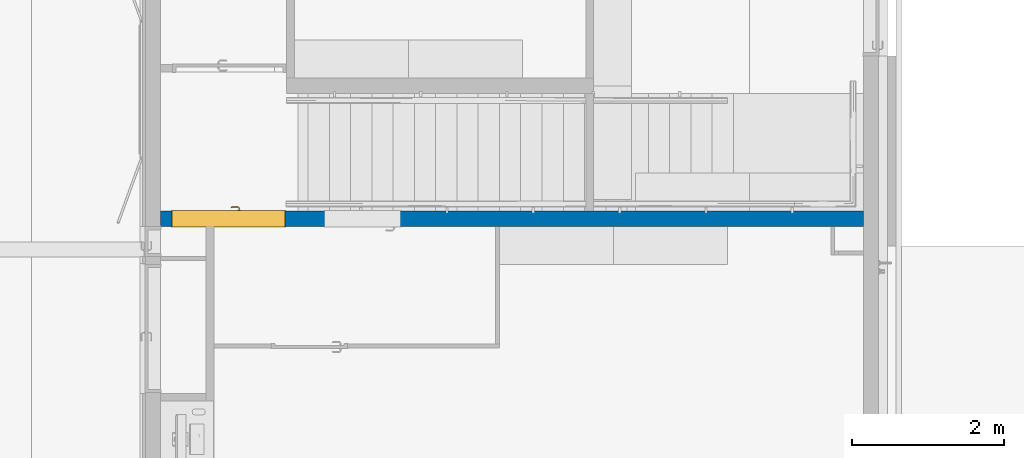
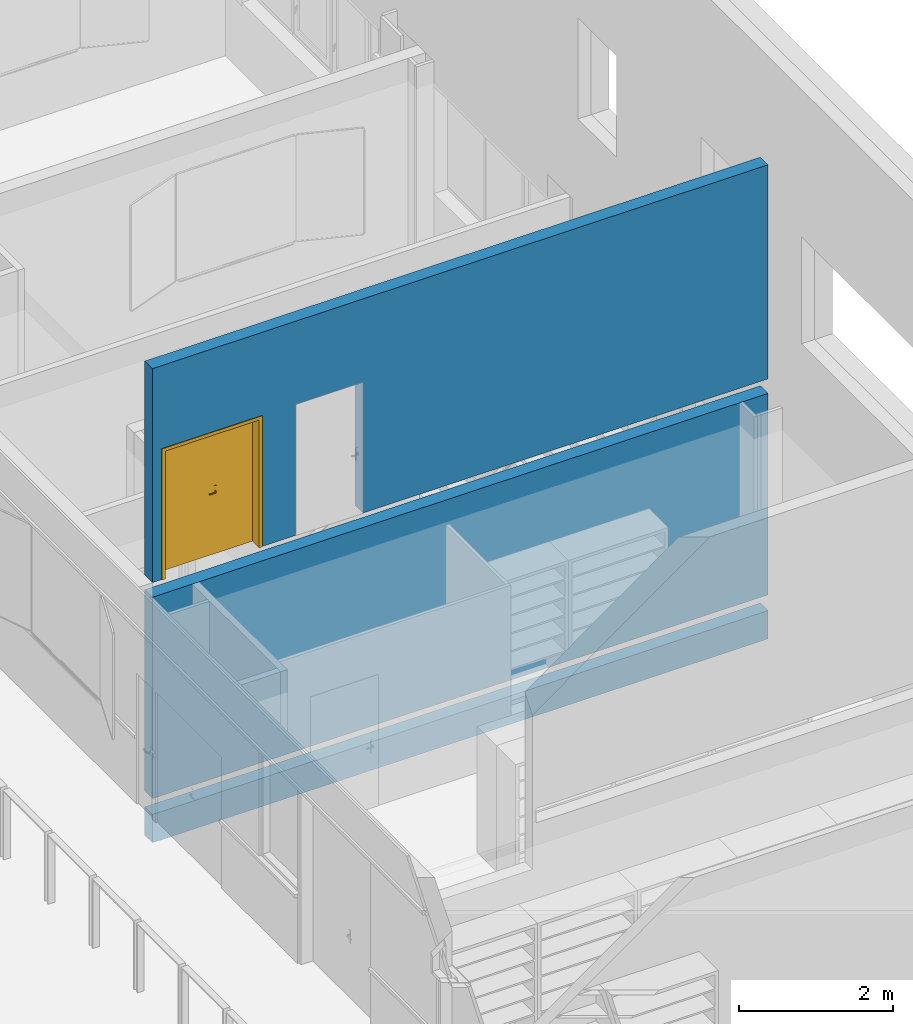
"""IFC2X3 building model written with IfcOpenShell, lengths in centimetres."""

import ifcopenshell
import ifcopenshell.guid

model = None  # the IFC model being written
_history = None  # IfcOwnerHistory: only IFC2X3 demands one
_inside = {}  # id of a spatial element -> (the spatial element, [elements in it])
_under = {}  # id of a project, library or spatial element -> (it, [spatial elements below it])
_declared = {}  # id of a project -> (the project, [libraries it declares])
_typed = {}  # id of a type object -> (the type object, [elements of that type])
_made_of = {}  # id of a material, layer set ... -> (it, [elements and type objects made of it])


def new_model(schema):
    """Start an empty IFC model of exactly this schema.

    Asked for "IFC4X3", IfcOpenShell would pick the latest addendum, in which some entities
    have other attributes; the version numbers below select the first issue.
    IFC2X3 requires an IfcOwnerHistory on every rooted entity: one is made here for all.
    """
    global model, _history
    if schema == "IFC4X3":
        model = ifcopenshell.file(schema_version=(4, 3, 0, 0))
    else:
        model = ifcopenshell.file(schema=schema)
    _inside.clear()
    _under.clear()
    _declared.clear()
    _typed.clear()
    _made_of.clear()
    _history = None
    if model.schema == "IFC2X3":
        org = make("IfcOrganization", Name="unknown")
        user = make(
            "IfcPersonAndOrganization",
            ThePerson=make("IfcPerson", FamilyName="unknown"),
            TheOrganization=org,
        )
        app = make(
            "IfcApplication",
            ApplicationDeveloper=org,
            Version="unknown",
            ApplicationFullName="unknown",
            ApplicationIdentifier="unknown",
        )
        _history = make(
            "IfcOwnerHistory",
            OwningUser=user,
            OwningApplication=app,
            ChangeAction="ADDED",
            CreationDate=0,
        )
    return model


def make(cls, **values):
    """One entity of the class cls with the attributes given. An attribute that is None is left unset."""
    return model.create_entity(
        cls, **{name: value for name, value in values.items() if value is not None}
    )


def entity(cls, *values):
    """Any entity or typed value of the class cls, its attributes in the order of the schema. None: left unset."""
    e = model.create_entity(cls)
    for i, value in enumerate(values):
        if value is not None:
            e[i] = value
    return e


def rooted(cls, **values):
    """An entity with a GlobalId (a new one), such as an element, a storey or a relation."""
    return make(cls, GlobalId=ifcopenshell.guid.new(), OwnerHistory=_history, **values)


def si_unit(unit_type, name, prefix=None):
    """IfcSIUnit, for example si_unit("LENGTHUNIT", "METRE", prefix="MILLI")."""
    return make("IfcSIUnit", UnitType=unit_type, Prefix=prefix, Name=name)


def converted_unit(unit_type, name, factor, base, dimensions=None, offset=None):
    """IfcConversionBasedUnit, such as the inch: factor (a typed value) times the base unit."""
    return make(
        "IfcConversionBasedUnit"
        if offset is None
        else "IfcConversionBasedUnitWithOffset",
        ConversionOffset=offset,
        Dimensions=None
        if dimensions is None
        else entity("IfcDimensionalExponents", *dimensions),
        UnitType=unit_type,
        Name=name,
        ConversionFactor=make(
            "IfcMeasureWithUnit", ValueComponent=factor, UnitComponent=base
        ),
    )


def derived_unit(unit_type, elements):
    """IfcDerivedUnit: a product of units, each with its exponent."""
    return make(
        "IfcDerivedUnit",
        Elements=[
            make("IfcDerivedUnitElement", Unit=unit, Exponent=power)
            for unit, power in elements
        ],
        UnitType=unit_type,
    )


def assignment(units):
    """IfcUnitAssignment: the units of a project."""
    return None if units is None else make("IfcUnitAssignment", Units=units)


def point(xyz):
    """IfcCartesianPoint."""
    return None if xyz is None else make("IfcCartesianPoint", Coordinates=xyz)


def direction(xyz):
    """IfcDirection."""
    return None if xyz is None else make("IfcDirection", DirectionRatios=xyz)


def frame(location, z_axis=None, x_axis=None):
    """IfcAxis2Placement3D, a coordinate frame: its origin and axes. An axis left out is left unset."""
    return make(
        "IfcAxis2Placement3D",
        Location=point(location),
        Axis=direction(z_axis),
        RefDirection=direction(x_axis),
    )


def frame_2d(location, x_axis=None):
    """IfcAxis2Placement2D, a coordinate frame in the plane: its origin and x axis."""
    return make(
        "IfcAxis2Placement2D", Location=point(location), RefDirection=direction(x_axis)
    )


def origin():
    """The frame at (0, 0, 0) with its axes left unset."""
    return frame((0.0, 0.0, 0.0))


def place(relative_to, where):
    """IfcLocalPlacement: puts the frame where relative to a parent placement (None: the world)."""
    return make(
        "IfcLocalPlacement", PlacementRelTo=relative_to, RelativePlacement=where
    )


def context(
    kind, dimensions, precision=None, world=None, true_north=None, identifier=None
):
    """IfcGeometricRepresentationContext, for example the 3D "Model" context."""
    return make(
        "IfcGeometricRepresentationContext",
        ContextIdentifier=identifier,
        ContextType=kind,
        CoordinateSpaceDimension=dimensions,
        Precision=precision,
        WorldCoordinateSystem=world,
        TrueNorth=true_north,
    )


def subcontext(parent, identifier, kind, view, scale=None):
    """IfcGeometricRepresentationSubContext, for example "Body" below "Model"."""
    return make(
        "IfcGeometricRepresentationSubContext",
        ContextIdentifier=identifier,
        ContextType=kind,
        ParentContext=parent,
        TargetScale=scale,
        TargetView=view,
    )


def project(units=None, contexts=None):
    """IfcProject with its units and contexts."""
    return rooted(
        "IfcProject",
        Name="project",
        RepresentationContexts=contexts,
        UnitsInContext=assignment(units),
    )


def spatial(cls, under=None, at=None, **own):
    """A site, building, storey or space (cls), placed at a placement, below another one or the project."""
    s = rooted(cls, ObjectPlacement=at, **own)
    if under is not None:
        _under.setdefault(under.id(), (under, []))[1].append(s)
    return s


def profile(cls, at=None, kind="AREA", **sizes):
    """A parametric profile (cls). Its sizes go by their IFC names, for example OverallWidth=200.0."""
    return make(cls, ProfileType=kind, Position=at, **sizes)


def rectangle(**sizes):
    """IfcRectangleProfileDef."""
    return profile("IfcRectangleProfileDef", **sizes)


def extrude(swept, where, along, depth):
    """IfcExtrudedAreaSolid: the profile swept, set in the frame where, extruded along a direction by depth."""
    return make(
        "IfcExtrudedAreaSolid",
        SweptArea=swept,
        Position=where,
        ExtrudedDirection=direction(along),
        Depth=depth,
    )


def faces_of(points, faces, orient=None, outer=None):
    """IfcFace entities. A face is a list of loops; a loop is a list of indices into points, from 0.

    orient and outer hold one flag for each loop. By default every Orientation is true, the
    first loop of a face is its IfcFaceOuterBound and the others are IfcFaceBound.
    """
    made = []
    for i, loops in enumerate(faces):
        bounds = []
        for j, loop in enumerate(loops):
            is_outer = j == 0 if outer is None else outer[i][j]
            bounds.append(
                make(
                    "IfcFaceOuterBound" if is_outer else "IfcFaceBound",
                    Bound=make("IfcPolyLoop", Polygon=[points[k] for k in loop]),
                    Orientation=True if orient is None else orient[i][j],
                )
            )
        made.append(make("IfcFace", Bounds=bounds))
    return made


def faceted_brep(points, faces, orient=None, outer=None, voids=None):
    """IfcFacetedBrep: a solid bounded by flat faces; with voids (closed shells), ...WithVoids."""
    shared = [point(p) for p in points]
    hull = make("IfcClosedShell", CfsFaces=faces_of(shared, faces, orient, outer))
    if voids is None:
        return make("IfcFacetedBrep", Outer=hull)
    return make(
        "IfcFacetedBrepWithVoids",
        Outer=hull,
        Voids=[
            make(cls, CfsFaces=faces_of(shared, fs, o, b)) for cls, fs, o, b in voids
        ],
    )


def shape(context_of_items, identifier, shape_type, items):
    """IfcShapeRepresentation: the items that make up one representation, for example the "Body"."""
    return make(
        "IfcShapeRepresentation",
        ContextOfItems=context_of_items,
        RepresentationIdentifier=identifier,
        RepresentationType=shape_type,
        Items=items,
    )


def source(mapping_origin, context_of_items, identifier, shape_type, items):
    """IfcRepresentationMap: a shape defined once, which mapped items show again and again."""
    return make(
        "IfcRepresentationMap",
        MappingOrigin=mapping_origin,
        MappedRepresentation=shape(context_of_items, identifier, shape_type, items),
    )


def transform(
    local_origin,
    x_axis=None,
    y_axis=None,
    z_axis=None,
    scale=None,
    scale2=None,
    scale3=None,
    uniform=True,
):
    """IfcCartesianTransformationOperator3D, or its non-uniform kind. x_axis, y_axis, z_axis: its Axis1, 2, 3."""
    if uniform:
        return make(
            "IfcCartesianTransformationOperator3D",
            Axis1=direction(x_axis),
            Axis2=direction(y_axis),
            LocalOrigin=point(local_origin),
            Scale=scale,
            Axis3=direction(z_axis),
        )
    return make(
        "IfcCartesianTransformationOperator3DnonUniform",
        Axis1=direction(x_axis),
        Axis2=direction(y_axis),
        LocalOrigin=point(local_origin),
        Scale=scale,
        Axis3=direction(z_axis),
        Scale2=scale2,
        Scale3=scale3,
    )


def mapped(mapping_source, mapping_target):
    """IfcMappedItem: shows the shape of a source again, moved by a transform."""
    return make(
        "IfcMappedItem", MappingSource=mapping_source, MappingTarget=mapping_target
    )


def material(Name=None, Category=None):
    """IfcMaterial."""
    return make("IfcMaterial", Name=Name, Category=Category)


def material_list(materials):
    """IfcMaterialList."""
    return make("IfcMaterialList", Materials=materials)


def layer(
    of_material, thickness, ventilated=None, Name=None, Category=None, Priority=None
):
    """IfcMaterialLayer: one layer of a wall or slab, of a material (None: an air gap)."""
    return make(
        "IfcMaterialLayer",
        Material=of_material,
        LayerThickness=thickness,
        IsVentilated=ventilated,
        Name=Name,
        Category=Category,
        Priority=Priority,
    )


def layer_set(layers, Name=None):
    """IfcMaterialLayerSet."""
    return make("IfcMaterialLayerSet", MaterialLayers=layers, LayerSetName=Name)


def made_of(thing, what):
    """Note that an element or type object is made of a material, layer set ...; save() writes the relation."""
    if what is not None:
        _made_of.setdefault(what.id(), (what, []))[1].append(thing)
    return thing


def type_object(cls, material=None, **own):
    """A type object (cls), such as IfcWallType, which elements share."""
    return made_of(rooted(cls, **own), material)


def type_shapes(of_type, sources):
    """Give a type object the sources (RepresentationMaps) that its elements show as mapped items."""
    of_type.RepresentationMaps = sources


def element(
    cls,
    number,
    at=None,
    inside=None,
    cuts=None,
    type_object=None,
    material=None,
    context=None,
    identifier="Body",
    shape_type=None,
    held_by="IfcProductDefinitionShape",
    body=None,
    shapes=None,
    **own,
):
    """One element of the class cls, such as IfcWall. Its Tag is "e" and its number.

    at: its placement. inside: the storey or other place that contains it. cuts: it is an
    opening in that element (IfcRelVoidsElement). A single representation is given by context,
    identifier, shape_type and body (its items); several are given by shapes. held_by: the class
    of the entity that holds the representations. save() writes the other relations.
    """
    e = rooted(cls, Tag="e%d" % number, ObjectPlacement=at, **own)
    if body is not None:
        shapes = [shape(context, identifier, shape_type, body)]
    if shapes is not None:
        e.Representation = make(held_by, Representations=shapes)
    if inside is not None:
        _inside.setdefault(inside.id(), (inside, []))[1].append(e)
    if cuts is not None:
        rooted(
            "IfcRelVoidsElement", RelatingBuildingElement=cuts, RelatedOpeningElement=e
        )
    if type_object is not None:
        _typed.setdefault(type_object.id(), (type_object, []))[1].append(e)
    return made_of(e, material)


def fill(opening, filler):
    """IfcRelFillsElement: the door or window that sits in an opening."""
    return rooted(
        "IfcRelFillsElement",
        RelatingOpeningElement=opening,
        RelatedBuildingElement=filler,
    )


def aggregate(whole, parts):
    """IfcRelAggregates: a whole, such as a stair, and the parts it consists of."""
    return rooted("IfcRelAggregates", RelatingObject=whole, RelatedObjects=parts)


def save(model, path):
    """Write the relations noted so far, then the file.

    IfcRelAggregates (storeys below a building ...), IfcRelContainedInSpatialStructure (elements
    in a storey), IfcRelDefinesByType, IfcRelAssociatesMaterial and IfcRelDeclares: one each for
    every whole, place, type object, material and project.
    """
    for whole, parts in _under.values():
        aggregate(whole, parts)
    for where, things in _inside.values():
        rooted(
            "IfcRelContainedInSpatialStructure",
            RelatedElements=things,
            RelatingStructure=where,
        )
    for kind, things in _typed.values():
        rooted("IfcRelDefinesByType", RelatedObjects=things, RelatingType=kind)
    for what, things in _made_of.values():
        rooted("IfcRelAssociatesMaterial", RelatedObjects=things, RelatingMaterial=what)
    for by, libraries in _declared.values():
        rooted("IfcRelDeclares", RelatingContext=by, RelatedDefinitions=libraries)
    model.write(path)


model = new_model("IFC2X3")

# Units and contexts
model_context = context("Model", 3, precision=0.001, world=origin(), true_north=direction((6.12303176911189e-17, 1.0)))
body_context = subcontext(model_context, "Body", "Model", "MODEL_VIEW")
ifc_project = project(units=[si_unit("LENGTHUNIT", "METRE", prefix="CENTI"), si_unit("AREAUNIT", "SQUARE_METRE"), si_unit("VOLUMEUNIT", "CUBIC_METRE"), converted_unit("PLANEANGLEUNIT", "DEGREE", entity("IfcRatioMeasure", 0.0174532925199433), si_unit("PLANEANGLEUNIT", "RADIAN"), dimensions=[0, 0, 0, 0, 0, 0, 0]), si_unit("MASSUNIT", "GRAM", prefix="KILO"), si_unit("TIMEUNIT", "SECOND"), si_unit("FREQUENCYUNIT", "HERTZ"), si_unit("THERMODYNAMICTEMPERATUREUNIT", "DEGREE_CELSIUS"), derived_unit("THERMALTRANSMITTANCEUNIT", [(si_unit("MASSUNIT", "GRAM", prefix="KILO"), 1), (si_unit("THERMODYNAMICTEMPERATUREUNIT", "KELVIN"), -1), (si_unit("TIMEUNIT", "SECOND"), -3)]), derived_unit("VOLUMETRICFLOWRATEUNIT", [(si_unit("LENGTHUNIT", "METRE"), 3), (si_unit("TIMEUNIT", "SECOND"), -1)]), si_unit("ELECTRICCURRENTUNIT", "AMPERE"), si_unit("ELECTRICVOLTAGEUNIT", "VOLT"), si_unit("POWERUNIT", "WATT"), si_unit("FORCEUNIT", "NEWTON", prefix="KILO"), si_unit("ILLUMINANCEUNIT", "LUX"), si_unit("LUMINOUSFLUXUNIT", "LUMEN"), si_unit("LUMINOUSINTENSITYUNIT", "CANDELA"), derived_unit("USERDEFINED", [(si_unit("MASSUNIT", "GRAM", prefix="KILO"), -1), (si_unit("LENGTHUNIT", "METRE"), -2), (si_unit("TIMEUNIT", "SECOND"), 3), (si_unit("LUMINOUSFLUXUNIT", "LUMEN"), 1)]), derived_unit("LINEARVELOCITYUNIT", [(si_unit("LENGTHUNIT", "METRE"), 1), (si_unit("TIMEUNIT", "SECOND"), -1)]), si_unit("PRESSUREUNIT", "PASCAL"), derived_unit("USERDEFINED", [(si_unit("LENGTHUNIT", "METRE"), -2), (si_unit("MASSUNIT", "GRAM", prefix="KILO"), 1), (si_unit("TIMEUNIT", "SECOND"), -2)])], contexts=[model_context])

# Site, building, storey
site_placement = place(None, frame((8.62739174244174, -249.285249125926, 0.0)))
site = spatial("IfcSite", under=ifc_project, at=site_placement, Name="Default", CompositionType="ELEMENT")
building_placement = place(site_placement, origin())
building = spatial("IfcBuilding", under=site, at=building_placement, CompositionType="ELEMENT")
storey_1_placement = place(building_placement, origin())
storey_1 = spatial("IfcBuildingStorey", under=building, at=storey_1_placement, Name="RDC", CompositionType="ELEMENT", Elevation=-8.82465566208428e-11)

# Wall, openings
ifc_material_1 = material(Name="Béton, coulé sur place, gris")
ifc_layer = layer(ifc_material_1, 20.0)
ifc_layer_set = layer_set([ifc_layer], Name="Mur de base:BET 20")
wall_type = type_object("IfcWallType", Name="Mur de base:BET 20", PredefinedType="STANDARD", material=ifc_layer_set)
wall_placement = place(storey_1_placement, frame((3053.9048277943, 4692.98020813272, -70.0)))
wall = element("IfcWall", 1, at=wall_placement, inside=storey_1, type_object=wall_type, Name="Mur de base:BET 20", ObjectType="Mur de base:BET 20", context=body_context, shape_type="Brep", body=[
    faceted_brep([(0.0, -10.0, 0.0), (925.0, -10.0, 0.0), (925.0, -10.0, 45.0), (0.0, -10.0, 45.0), (925.0, 10.0, 0.0), (0.0, 10.0, 0.0), (0.0, 10.0, 45.0), (925.0, 10.0, 45.0)], [[[0, 1, 2, 3]], [[4, 5, 6, 7]], [[1, 0, 5, 4]], [[1, 4, 7, 2]], [[5, 0, 3, 6]], [[3, 2, 7, 6]]]),
    faceted_brep([(2.05294529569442e-09, -10.0, 753.0), (166.0, -10.0, 753.0), (176.0, -10.0, 753.0), (925.0, -10.0, 753.0), (925.0, 10.0, 753.0), (176.0, 10.0, 753.0), (166.0, 10.0, 753.0), (2.40460246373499e-09, 10.0, 753.0), (2.40460246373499e-09, 10.0, 413.0), (2.05294529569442e-09, -10.0, 413.0), (2.05294529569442e-09, -10.0, 691.0), (215.999976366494, -10.0, 620.500000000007), (215.999976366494, -10.0, 413.0), (215.999976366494, 10.0, 413.0), (215.999976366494, 10.0, 620.500000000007), (315.999976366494, -10.0, 620.500000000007), (315.999976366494, 10.0, 620.500000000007), (315.999976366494, -10.0, 413.0), (315.999976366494, 10.0, 413.0), (163.999988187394, -10.0, 620.0), (163.999988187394, 10.0, 620.0), (163.999988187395, 10.0, 413.0), (163.999988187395, -10.0, 413.0), (14.9999881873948, -10.0, 620.0), (14.9999881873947, 10.0, 620.0), (14.9999881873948, -10.0, 413.0), (14.9999881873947, 10.0, 413.0), (176.0, -10.0, 413.0), (166.0, -10.0, 413.0), (166.0, 10.0, 413.0), (176.0, 10.0, 413.0), (925.0, -10.0, 413.0), (326.999976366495, 10.0, 413.0), (925.0, 10.0, 413.0), (925.0, 10.0, 521.0), (925.0, 10.0, 691.0)], [[[0, 1, 2, 3, 4, 5, 6, 7]], [[0, 7, 8, 9, 10]], [[11, 12, 13, 14]], [[15, 11, 14, 16]], [[17, 15, 16, 18]], [[19, 20, 21, 22]], [[20, 19, 23, 24]], [[24, 23, 25, 26]], [[25, 9, 8, 26]], [[12, 27, 28, 22, 21, 29, 30, 13]], [[31, 17, 18, 32, 33]], [[4, 3, 31, 33, 34, 35]], [[7, 6, 5, 4, 35, 34, 33, 32, 18, 16, 14, 13, 30, 29, 21, 20, 24, 26, 8]], [[3, 2, 1, 0, 10, 9, 25, 23, 19, 22, 28, 27, 12, 11, 15, 17, 31]]]),
    faceted_brep([(925.0, -10.0, 70.0), (0.0, -10.0, 70.0), (0.0, 10.0, 70.0), (925.0, 10.0, 70.0), (0.0, -10.0, 390.0), (925.0, -10.0, 390.0), (925.0, 10.0, 390.0), (326.999976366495, 10.0, 390.0), (0.0, 10.0, 390.0), (0.0, -10.0, 277.499999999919)], [[[0, 1, 2, 3]], [[4, 5, 6, 7, 8]], [[2, 1, 9, 4, 8]], [[0, 3, 6, 5]], [[3, 2, 8, 7, 6]], [[1, 0, 5, 4, 9]]]),
])
opening_1_placement = place(wall_placement, frame((14.999988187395, -10.0, 413.0)))
opening_1 = element("IfcOpeningElement", 2, at=opening_1_placement, cuts=wall, Name="Tierce(R)_bois_mu:143 x 204 cm:1", ObjectType="Opening", context=body_context, shape_type="SweptSolid", body=[
    extrude(rectangle(XDim=206.999999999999, YDim=149.0, at=frame_2d((103.499999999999, 74.4999999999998), x_axis=(1.0, 0.0))), frame((0.0, 0.0, 0.0), z_axis=(0.0, 1.0, 0.0), x_axis=(0.0, 0.0, 1.0)), (0.0, 0.0, 1.0), 20.0),
])
opening_2_placement = place(wall_placement, frame((315.999976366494, 10.0, 413.0)))
element("IfcOpeningElement", 3, at=opening_2_placement, cuts=wall, Name="Simple(R)_bois_mu:93 x 204 cm:1", ObjectType="Opening", context=body_context, shape_type="SweptSolid", body=[
    extrude(rectangle(XDim=207.499999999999, YDim=99.9999999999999, at=frame_2d((103.749999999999, 50.0), x_axis=(1.0, 0.0))), frame((0.0, 0.0, 0.0), z_axis=(0.0, -1.0, 0.0), x_axis=(0.0, 0.0, 1.0)), (0.0, 0.0, 1.0), 20.0),
])

# Storey
storey_2_placement = place(building_placement, frame((0.0, 0.0, 343.0)))
storey_2 = spatial("IfcBuildingStorey", under=building, at=storey_2_placement, Name="R+1", CompositionType="ELEMENT", Elevation=343.0)

# Door
ifc_material_2 = material(Name="Aluminium-Dorma Metal-Anodized Silver")
ifc_material_3 = material(Name="Porte - Cadre")
ifc_material_4 = material(Name="Porte - Panneau")
ifc_material_list_1 = material_list([ifc_material_2, ifc_material_3, ifc_material_4])
ifc_material_list_2 = material_list([ifc_material_2, ifc_material_3, ifc_material_4])
door_style = type_object("IfcDoorStyle", Name="143 x 204 cm", ConstructionType="NOTDEFINED", OperationType="NOTDEFINED", ParameterTakesPrecedence=False, Sizeable=False, material=ifc_material_list_2)
shared_shape = source(origin(), body_context, "Body", "Brep", [
    faceted_brep([(60.2974701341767, 3.69999999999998, 100.778044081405), (59.8999999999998, 3.69999999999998, 100.699999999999), (59.8999999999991, 3.69999999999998, 99.2999999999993), (60.2974701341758, 3.69999999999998, 99.2219559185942), (60.7025298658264, 3.69999999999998, 99.2219559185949), (61.1000000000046, 3.69999999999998, 99.3000000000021), (61.100000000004, 3.69999999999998, 100.699999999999), (60.7025298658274, 3.69999999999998, 100.778044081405), (61.1000000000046, 5.94852045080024, 99.3000000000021), (61.1000000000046, 5.94852045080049, 100.699999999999), (60.7025298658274, 6.1131579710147, 100.778044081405), (62.0838906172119, 7.49451872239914, 100.778044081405), (61.916109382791, 7.89957845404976, 100.778044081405), (60.2974701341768, 6.2809392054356, 100.778044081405), (71.0684749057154, 6.84673156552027, 100.778044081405), (71.3548953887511, 7.13315204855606, 100.778044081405), (70.5884689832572, 7.89957845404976, 100.778044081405), (70.4206877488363, 7.49451872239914, 100.778044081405), (59.8999999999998, 6.44557672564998, 100.699999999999), (59.8999999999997, 6.44557672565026, 99.2999999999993), (60.2974701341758, 6.28093920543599, 99.2219559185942), (61.9161093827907, 7.8995784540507, 99.2219559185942), (62.0838906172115, 7.49451872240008, 99.2219559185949), (60.7025298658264, 6.11315797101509, 99.2219559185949), (71.3548953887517, 7.13315204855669, 99.2219559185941), (71.068474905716, 6.84673156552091, 99.2219559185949), (70.4206877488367, 7.49451872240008, 99.2219559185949), (70.5884689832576, 7.8995784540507, 99.2219559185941), (62.2485281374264, 7.09704858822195, 99.3000000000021), (62.2485281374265, 7.09704858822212, 100.699999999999), (61.7514718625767, 8.29704858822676, 100.699999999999), (61.7514718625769, 8.29704858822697, 99.2999999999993), (66.2522904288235, 7.09704858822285, 99.3000000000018), (70.2560502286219, 7.09704858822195, 99.3000000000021), (70.2560502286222, 7.09704858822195, 100.699999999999), (66.2522891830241, 7.09704858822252, 100.699999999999), (66.2522891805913, 7.71249275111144, 100.787811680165), (70.7531065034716, 8.29704858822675, 100.699999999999), (66.7600577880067, 8.29704858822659, 100.699999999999), (70.7531065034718, 8.29704858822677, 99.2999999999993), (65.7445206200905, 8.29704858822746, 99.2999999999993), (66.2522892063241, 7.71249274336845, 99.2121883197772), (70.7874210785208, 6.56567773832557, 99.3000000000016), (71.6359492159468, 7.41420587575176, 99.2999999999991), (71.6359492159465, 7.4142058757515, 100.699999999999), (70.7874210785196, 6.5656777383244, 100.699999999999)], [[[0, 1, 2, 3, 4, 5, 6, 7]], [[6, 5, 8, 9]], [[9, 10, 7, 6]], [[10, 11, 12, 13, 0, 7]], [[14, 15, 16, 17]], [[13, 18, 1, 0]], [[2, 1, 18, 19]], [[19, 20, 3, 2]], [[20, 21, 22, 23, 4, 3]], [[24, 25, 26, 27]], [[23, 8, 5, 4]], [[9, 8, 28, 29]], [[29, 11, 10, 9]], [[12, 30, 18, 13]], [[19, 18, 30, 31]], [[31, 21, 20, 19]], [[22, 28, 8, 23]], [[29, 28, 32, 33, 34, 35]], [[11, 35, 36]], [[16, 37, 38]], [[30, 12, 38]], [[38, 12, 36]], [[36, 35, 17]], [[17, 16, 36]], [[35, 11, 29]], [[34, 17, 35]], [[11, 36, 12]], [[38, 36, 16]], [[31, 30, 38, 37, 39, 40]], [[40, 41, 21]], [[41, 40, 27]], [[21, 31, 40]], [[39, 27, 40]], [[41, 32, 22]], [[22, 21, 41]], [[26, 32, 41]], [[28, 22, 32]], [[32, 26, 33]], [[26, 41, 27]], [[42, 25, 24, 43, 44, 15, 14, 45]], [[34, 33, 42, 45]], [[45, 14, 17, 34]], [[15, 44, 37, 16]], [[39, 37, 44, 43]], [[43, 24, 27, 39]], [[25, 42, 33, 26]]]),
    faceted_brep([(60.2974701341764, -1.30000000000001, 100.778044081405), (60.702529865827, -1.30000000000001, 100.778044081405), (61.1000000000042, -1.30000000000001, 100.699999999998), (61.1000000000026, -1.30000000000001, 99.3000000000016), (60.7025298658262, -1.30000000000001, 99.2219559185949), (60.2974701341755, -1.30000000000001, 99.2219559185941), (59.8999999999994, -1.30000000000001, 99.2999999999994), (59.8999999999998, -1.30000000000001, 100.699999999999), (59.8999999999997, -4.06509507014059, 100.699999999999), (60.2974701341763, -3.90045754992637, 100.778044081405), (61.9023585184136, -5.50534593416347, 100.778044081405), (62.0701397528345, -5.10028620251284, 100.778044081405), (60.702529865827, -3.73267631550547, 100.778044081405), (71.3521810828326, -4.73891952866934, 100.778044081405), (71.0657605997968, -4.4524990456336, 100.778044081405), (70.4179734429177, -5.10028620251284, 100.778044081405), (70.5857546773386, -5.50534593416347, 100.778044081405), (61.1000000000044, -3.56803879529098, 100.699999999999), (61.1000000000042, -3.56803879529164, 99.3000000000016), (60.7025298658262, -3.7326763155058, 99.2219559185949), (62.0701397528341, -5.10028620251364, 99.2219559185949), (61.9023585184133, -5.50534593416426, 99.2219559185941), (60.2974701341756, -3.9004575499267, 99.2219559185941), (71.0657605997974, -4.45249904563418, 99.2219559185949), (71.3521810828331, -4.73891952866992, 99.2219559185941), (70.5857546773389, -5.50534593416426, 99.2219559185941), (70.417973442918, -5.10028620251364, 99.2219559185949), (59.8999999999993, -4.06509507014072, 99.2999999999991), (61.7377209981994, -5.90281606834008, 100.699999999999), (62.234777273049, -4.70281606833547, 100.699999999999), (62.2347772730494, -4.70281606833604, 99.3000000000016), (61.7377209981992, -5.90281606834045, 99.2999999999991), (65.730769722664, -5.90281606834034, 100.699999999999), (66.2440566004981, -5.31828027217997, 100.787811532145), (70.7503921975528, -5.90281606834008, 100.699999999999), (66.2440565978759, -4.70281606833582, 100.699999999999), (70.2533359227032, -4.70281606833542, 100.699999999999), (70.2533359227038, -4.70281606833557, 99.3000000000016), (66.2440563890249, -4.70281606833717, 99.3000000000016), (66.2440565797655, -5.31828027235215, 99.2121884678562), (70.7503921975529, -5.90281606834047, 99.2999999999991), (66.7573433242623, -5.90281606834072, 99.2999999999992), (70.7847067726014, -4.1714452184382, 100.699999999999), (71.6332349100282, -5.01997335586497, 100.699999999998), (71.6332349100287, -5.01997335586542, 99.2999999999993), (70.7847067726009, -4.17144521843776, 99.3000000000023)], [[[0, 1, 2, 3, 4, 5, 6, 7]], [[8, 9, 0, 7]], [[9, 10, 11, 12, 1, 0]], [[13, 14, 15, 16]], [[12, 17, 2, 1]], [[3, 2, 17, 18]], [[18, 19, 4, 3]], [[19, 20, 21, 22, 5, 4]], [[23, 24, 25, 26]], [[22, 27, 6, 5]], [[7, 6, 27, 8]], [[28, 10, 9, 8]], [[11, 29, 17, 12]], [[18, 17, 29, 30]], [[30, 20, 19, 18]], [[21, 31, 27, 22]], [[8, 27, 31, 28]], [[32, 33, 10]], [[33, 32, 16]], [[10, 28, 32]], [[34, 16, 32]], [[33, 35, 11]], [[11, 10, 33]], [[15, 35, 33]], [[29, 11, 35]], [[35, 15, 36]], [[15, 33, 16]], [[30, 29, 35, 36, 37, 38]], [[20, 38, 39]], [[25, 40, 41]], [[31, 21, 41]], [[41, 21, 39]], [[39, 38, 26]], [[26, 25, 39]], [[38, 20, 30]], [[37, 26, 38]], [[20, 39, 21]], [[41, 39, 25]], [[28, 31, 41, 40, 34, 32]], [[42, 14, 13, 43, 44, 24, 23, 45]], [[43, 13, 16, 34]], [[14, 42, 36, 15]], [[37, 36, 42, 45]], [[45, 23, 26, 37]], [[24, 44, 40, 25]], [[34, 40, 44, 43]]]),
    faceted_brep([(61.5352761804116, 3.19999999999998, 86.6003983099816), (62.5000000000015, 3.19999999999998, 87.0), (62.5000000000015, 3.19999999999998, 108.0), (61.5352761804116, 3.19999999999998, 108.399601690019), (60.5000000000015, 3.19999999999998, 108.535898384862), (59.4647238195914, 3.19999999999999, 108.399601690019), (58.5000000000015, 3.19999999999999, 108.0), (58.5000000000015, 3.19999999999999, 87.0), (59.4647238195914, 3.19999999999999, 86.6003983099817), (60.5000000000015, 3.19999999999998, 86.4641016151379), (61.5352761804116, 3.69999999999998, 108.399601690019), (62.5000000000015, 3.69999999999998, 108.0), (62.5000000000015, 3.69999999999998, 87.0), (61.5352761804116, 3.69999999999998, 86.6003983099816), (60.5000000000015, 3.69999999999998, 86.4641016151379), (59.4647238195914, 3.69999999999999, 86.6003983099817), (58.5000000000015, 3.69999999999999, 87.0), (58.5000000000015, 3.69999999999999, 108.0), (59.4647238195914, 3.69999999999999, 108.399601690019), (60.5000000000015, 3.69999999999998, 108.535898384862)], [[[0, 1, 2, 3, 4, 5, 6, 7, 8, 9]], [[10, 11, 12, 13, 14, 15, 16, 17, 18, 19]], [[11, 10, 3, 2]], [[3, 10, 19, 4]], [[19, 18, 5, 4]], [[18, 17, 6, 5]], [[7, 6, 17, 16]], [[16, 15, 8, 7]], [[8, 15, 14, 9]], [[14, 13, 0, 9]], [[13, 12, 1, 0]], [[2, 1, 12, 11]]]),
    faceted_brep([(61.5352761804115, -1.30000000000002, 86.6003983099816), (62.5000000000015, -1.30000000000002, 87.0), (62.5000000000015, -1.30000000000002, 108.0), (61.5352761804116, -1.30000000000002, 108.399601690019), (60.5000000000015, -1.30000000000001, 108.535898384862), (59.4647238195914, -1.30000000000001, 108.399601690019), (58.5000000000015, -1.30000000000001, 108.0), (58.5000000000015, -1.30000000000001, 87.0), (59.4647238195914, -1.30000000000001, 86.6003983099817), (60.5000000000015, -1.30000000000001, 86.4641016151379), (61.5352761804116, -0.800000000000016, 108.399601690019), (62.5000000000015, -0.800000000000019, 108.0), (62.5000000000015, -0.800000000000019, 87.0), (61.5352761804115, -0.800000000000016, 86.6003983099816), (60.5000000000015, -0.800000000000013, 86.4641016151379), (59.4647238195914, -0.800000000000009, 86.6003983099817), (58.5000000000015, -0.800000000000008, 87.0), (58.5000000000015, -0.800000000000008, 108.0), (59.4647238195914, -0.800000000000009, 108.399601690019), (60.5000000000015, -0.800000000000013, 108.535898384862)], [[[0, 1, 2, 3, 4, 5, 6, 7, 8, 9]], [[10, 11, 12, 13, 14, 15, 16, 17, 18, 19]], [[16, 15, 8, 7]], [[8, 15, 14, 9]], [[14, 13, 0, 9]], [[13, 12, 1, 0]], [[2, 1, 12, 11]], [[11, 10, 3, 2]], [[3, 10, 19, 4]], [[19, 18, 5, 4]], [[18, 17, 6, 5]], [[7, 6, 17, 16]]]),
    faceted_brep([(149.0, 0.0, 0.0), (150.0, 0.0, 0.0), (150.0, -0.799999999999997, 0.0), (146.0, -0.799999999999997, 0.0), (146.0, 3.2, 0.0), (145.0, 3.2, 0.0), (145.0, 20.8000000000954, 0.0), (150.0, 20.8000000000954, 0.0), (150.0, 20.0, 0.0), (149.0, 20.0, 0.0), (149.0, 20.0, 207.0), (149.0, 0.0, 207.0), (150.0, 20.0, 208.0), (-1.0, 20.0, 208.0), (-1.0, 20.0, 0.0), (0.0, 20.0, 0.0), (0.0, 20.0, 207.0), (150.0, 20.8000000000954, 208.0), (145.0, 20.8000000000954, 203.0), (4.0, 20.8000000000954, 203.0), (4.0, 20.8000000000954, 0.0), (-1.0, 20.8000000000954, 0.0), (-1.0, 20.8000000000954, 208.0), (145.0, 3.2, 203.0), (146.0, 3.2, 204.0), (3.0, 3.2, 204.0), (3.0, 3.2, 0.0), (4.0, 3.2, 0.0), (4.0, 3.2, 203.0), (146.0, -0.799999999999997, 204.0), (150.0, -0.799999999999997, 208.0), (-1.0, -0.799999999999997, 208.0), (-1.0, -0.799999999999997, 0.0), (3.0, -0.799999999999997, 0.0), (3.0, -0.799999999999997, 204.0), (150.0, 0.0, 208.0), (0.0, 0.0, 207.0), (0.0, 0.0, 0.0), (-1.0, 0.0, 0.0), (-1.0, 0.0, 208.0)], [[[0, 1, 2, 3, 4, 5, 6, 7, 8, 9]], [[9, 10, 11, 0]], [[8, 12, 13, 14, 15, 16, 10, 9]], [[7, 17, 12, 8]], [[6, 18, 19, 20, 21, 22, 17, 7]], [[5, 23, 18, 6]], [[4, 24, 25, 26, 27, 28, 23, 5]], [[3, 29, 24, 4]], [[2, 30, 31, 32, 33, 34, 29, 3]], [[1, 35, 30, 2]], [[0, 11, 36, 37, 38, 39, 35, 1]], [[16, 15, 37, 36]], [[37, 15, 14, 21, 20, 27, 26, 33, 32, 38]], [[22, 21, 14, 13]], [[28, 27, 20, 19]], [[34, 33, 26, 25]], [[39, 38, 32, 31]], [[10, 16, 36, 11]], [[17, 22, 13, 12]], [[23, 28, 19, 18]], [[29, 34, 25, 24]], [[35, 39, 31, 30]]]),
    faceted_brep([(3.0, -0.799999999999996, 204.0), (3.0, -0.799999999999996, 0.0), (55.0, -0.799999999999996, 0.0), (55.0, -0.799999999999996, 204.0), (3.0, 3.2, 204.0), (55.0, 3.2, 204.0), (55.0, 3.2, 0.0), (3.0, 3.2, 0.0)], [[[0, 1, 2, 3]], [[4, 5, 6, 7]], [[3, 5, 4, 0]], [[2, 6, 5, 3]], [[1, 7, 6, 2]], [[0, 4, 7, 1]]]),
    faceted_brep([(146.0, -0.799999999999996, 0.0), (146.0, -0.799999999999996, 204.0), (55.0, -0.799999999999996, 204.0), (55.0, -0.799999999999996, 0.0), (146.0, 3.2, 0.0), (55.0, 3.2, 0.0), (55.0, 3.2, 204.0), (146.0, 3.2, 204.0)], [[[0, 1, 2, 3]], [[4, 5, 6, 7]], [[3, 5, 4, 0]], [[2, 6, 5, 3]], [[1, 7, 6, 2]], [[0, 4, 7, 1]]]),
])
type_shapes(door_style, [shared_shape])
door_placement = place(opening_1_placement, frame((149.0, 20.0, 0.0), z_axis=(0.0, 0.0, 1.0), x_axis=(-1.0, 0.0, 0.0)))
door = element("IfcDoor", 4, at=door_placement, inside=storey_2, type_object=door_style, material=ifc_material_list_1, Name="Tierce(R)_bois_mu:143 x 204 cm", ObjectType="143 x 204 cm", OverallHeight=206.999999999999, OverallWidth=149.0, context=body_context, shape_type="MappedRepresentation", body=[
    mapped(shared_shape, transform((0.0, 0.0, 0.0), scale=1.0)),
])

fill(opening_1, door)

save(model, "model.ifc")
